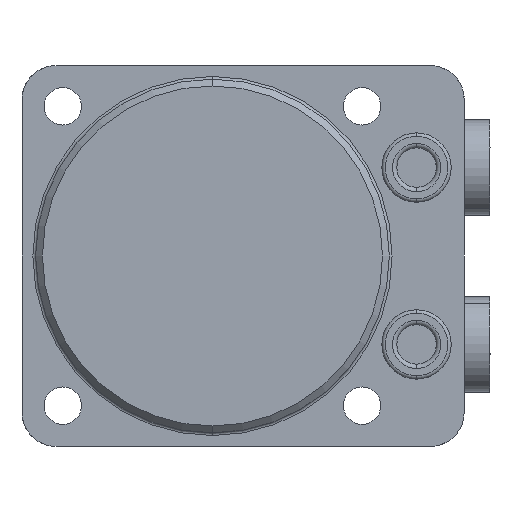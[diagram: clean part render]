
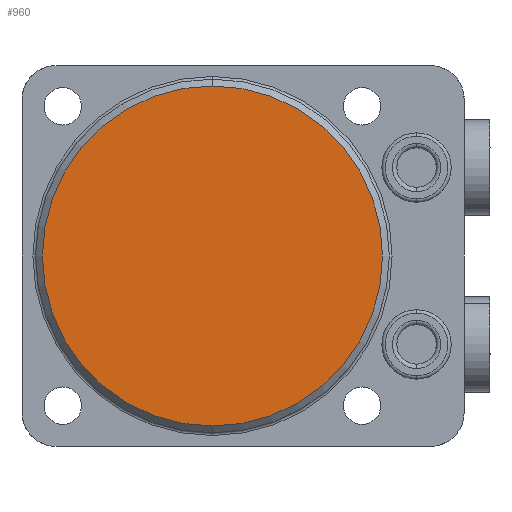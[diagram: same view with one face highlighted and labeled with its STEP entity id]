
A CAD part, front view. The second image highlights one B-rep face of the part: STEP entity #960.
In plain terms, the highlighted planar face has unit normal (0, -1, 0).
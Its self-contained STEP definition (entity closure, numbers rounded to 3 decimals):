
#693=PLANE('',#3608);
#960=ADVANCED_FACE('',(#1151),#693,.F.);
#1151=FACE_OUTER_BOUND('',#1336,.T.);
#1336=EDGE_LOOP('',(#2225,#2226));
#2225=ORIENTED_EDGE('',*,*,#3035,.T.);
#2226=ORIENTED_EDGE('',*,*,#2976,.T.);
#2652=VERTEX_POINT('',#5323);
#2653=VERTEX_POINT('',#5324);
#2976=EDGE_CURVE('',#2652,#2653,#3242,.T.);
#3035=EDGE_CURVE('',#2653,#2652,#3263,.T.);
#3242=CIRCLE('',#3575,25.);
#3263=CIRCLE('',#3607,25.);
#3575=AXIS2_PLACEMENT_3D('',#5322,#4362,#4363);
#3607=AXIS2_PLACEMENT_3D('',#5514,#4444,#4445);
#3608=AXIS2_PLACEMENT_3D('',#5515,#4446,#4447);
#4362=DIRECTION('',(0.,-1.,0.));
#4363=DIRECTION('',(0.,0.,1.));
#4444=DIRECTION('',(0.,-1.,0.));
#4445=DIRECTION('',(0.,0.,1.));
#4446=DIRECTION('',(0.,1.,0.));
#4447=DIRECTION('',(0.,0.,-1.));
#5322=CARTESIAN_POINT('',(0.,-42.,0.));
#5323=CARTESIAN_POINT('',(0.,-42.,-25.));
#5324=CARTESIAN_POINT('',(0.,-42.,25.));
#5514=CARTESIAN_POINT('',(0.,-42.,0.));
#5515=CARTESIAN_POINT('',(0.,-42.,0.));
